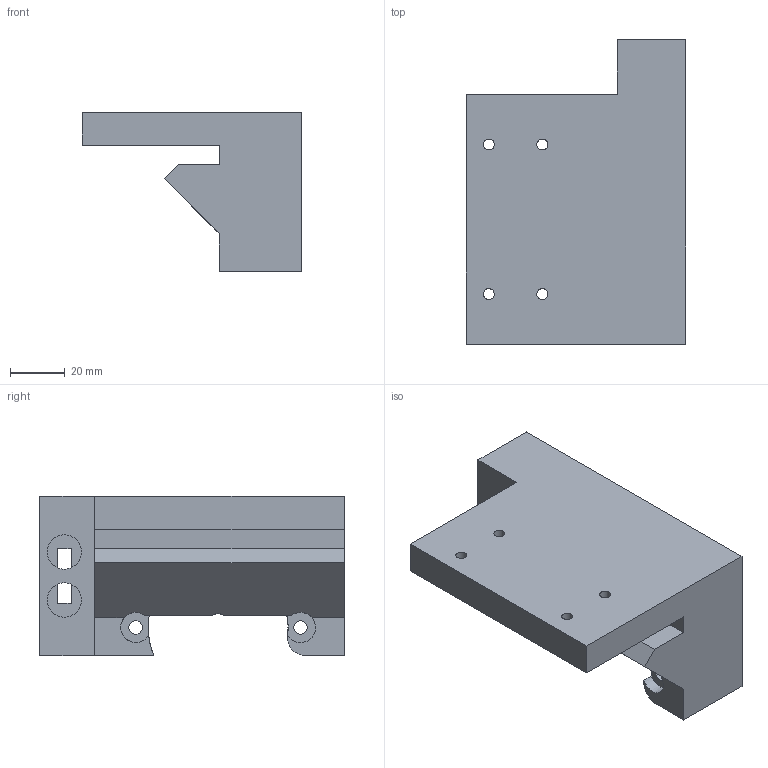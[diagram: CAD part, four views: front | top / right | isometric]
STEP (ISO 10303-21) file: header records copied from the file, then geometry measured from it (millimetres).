
FILE_DESCRIPTION(('FreeCAD Model'),'2;1');
FILE_NAME('/home/mike/Documents/3D/FreeCAD/CNC/STEP/MotorHolderX.step', '2017-05-27T09:33:41',('Author'),(''), 'Open CASCADE STEP processor 6.7','FreeCAD','Unknown');
FILE_SCHEMA(('AUTOMOTIVE_DESIGN_CC2 { 1 2 10303 214 -1 1 5 4 }'));
Length unit declared in the file: millimetre
Products named in the file (1): MotorHolder
Bounding box: 80 x 111 x 58 mm (x, y, z)
Volume: 196132.2 mm3; surface area: 40308.3 mm2
Topology: 1 solids, 1 shells, 69 faces, 198 edges, 134 vertices
Faces by surface type: plane 54, cylinder 15
Full cylindrical faces by diameter (mm): 4 x4, 5 x2, 12.5 x2
Entity records: 5736 total; most frequent: CARTESIAN_POINT 1332, DIRECTION 703, LINE 438, VECTOR 438, ORIENTED_EDGE 396, PCURVE 396, DEFINITIONAL_REPRESENTATION 396, EDGE_CURVE 198
